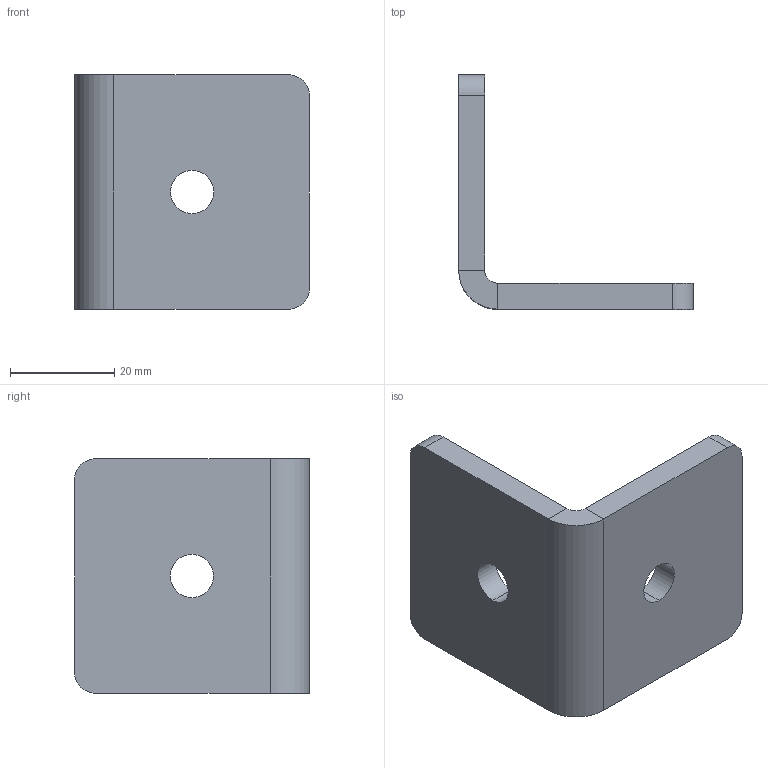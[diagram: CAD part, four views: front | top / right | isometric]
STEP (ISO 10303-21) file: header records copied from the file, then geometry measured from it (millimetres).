
FILE_DESCRIPTION (( 'STEP AP214' ), '1' );
FILE_NAME ('967-45-45-L-2-ZB.step', '2023-06-26T09:08:49', ( '' ), ( '' ), 'SwSTEP 2.0', 'SolidWorks 2022', '' );
FILE_SCHEMA (( 'AUTOMOTIVE_DESIGN' ));
Length unit declared in the file: millimetre
Products named in the file (1): 967-45-45-L-2-ZB
Bounding box: 45.05 x 45.05 x 45 mm (x, y, z)
Volume: 18054.6 mm3; surface area: 8727.8 mm2
Topology: 1 solids, 1 shells, 22 faces, 52 edges, 32 vertices
Faces by surface type: plane 12, cylinder 10
Entity records: 674 total; most frequent: DIRECTION 118, CARTESIAN_POINT 107, ORIENTED_EDGE 104, EDGE_CURVE 52, AXIS2_PLACEMENT_3D 43, VECTOR 32, VERTEX_POINT 32, LINE 32
